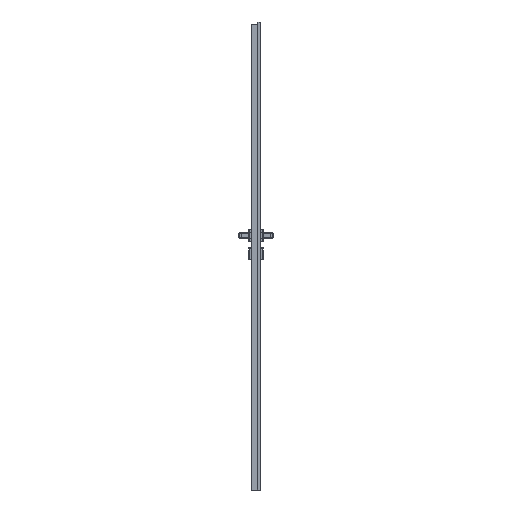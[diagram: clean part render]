
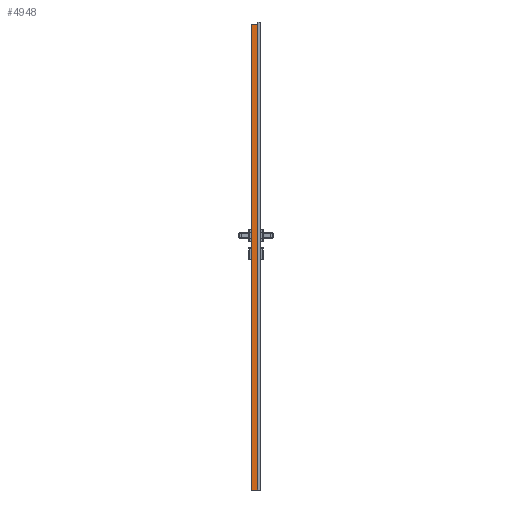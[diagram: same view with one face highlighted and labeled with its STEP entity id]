
A CAD part, left-side view. The second image highlights one B-rep face of the part: STEP entity #4948.
In plain terms, the highlighted planar face has unit normal (-1, 0, 0).
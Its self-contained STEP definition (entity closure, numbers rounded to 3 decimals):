
#2067=FACE_OUTER_BOUND('',#12147,.T.);
#4948=ADVANCED_FACE('',(#2067),#7770,.F.);
#7770=PLANE('',#59441);
#9772=CIRCLE('',#59422,1.48);
#12147=EDGE_LOOP('',(#16961,#16962,#16963,#16964,#16965));
#16961=ORIENTED_EDGE('',*,*,#39093,.F.);
#16962=ORIENTED_EDGE('',*,*,#39071,.T.);
#16963=ORIENTED_EDGE('',*,*,#39065,.T.);
#16964=ORIENTED_EDGE('',*,*,#39095,.F.);
#16965=ORIENTED_EDGE('',*,*,#39096,.T.);
#33151=VERTEX_POINT('',#83544);
#33152=VERTEX_POINT('',#83545);
#33156=VERTEX_POINT('',#83556);
#33167=VERTEX_POINT('',#83623);
#33168=VERTEX_POINT('',#83627);
#39065=EDGE_CURVE('',#33151,#33152,#47321,.T.);
#39071=EDGE_CURVE('',#33156,#33151,#9772,.T.);
#39093=EDGE_CURVE('',#33156,#33167,#47338,.T.);
#39095=EDGE_CURVE('',#33168,#33152,#47339,.T.);
#39096=EDGE_CURVE('',#33168,#33167,#47340,.T.);
#47321=LINE('',#83543,#53521);
#47338=LINE('',#83622,#53538);
#47339=LINE('',#83626,#53539);
#47340=LINE('',#83628,#53540);
#53521=VECTOR('',#65780,1.);
#53538=VECTOR('',#65837,1.);
#53539=VECTOR('',#65842,1.);
#53540=VECTOR('',#65843,1.);
#59422=AXIS2_PLACEMENT_3D('',#83555,#65790,#65791);
#59441=AXIS2_PLACEMENT_3D('',#83629,#65844,#65845);
#65780=DIRECTION('',(0.,1.,0.));
#65790=DIRECTION('',(1.,0.,0.));
#65791=DIRECTION('',(0.,0.,1.));
#65837=DIRECTION('',(0.,0.,-1.));
#65842=DIRECTION('',(0.,0.,1.));
#65843=DIRECTION('',(0.,-1.,0.));
#65844=DIRECTION('',(1.,0.,0.));
#65845=DIRECTION('',(0.,0.,-1.));
#83543=CARTESIAN_POINT('',(-309.,0.,2017.02));
#83544=CARTESIAN_POINT('',(-309.,-24.2,2017.02));
#83545=CARTESIAN_POINT('',(-309.,-1.65,2017.02));
#83555=CARTESIAN_POINT('',(-309.,-24.2,2018.5));
#83556=CARTESIAN_POINT('',(-309.,-24.649,2017.074));
#83622=CARTESIAN_POINT('',(-309.,-24.65,0.));
#83623=CARTESIAN_POINT('',(-309.,-24.65,0.));
#83626=CARTESIAN_POINT('',(-309.,-1.65,0.));
#83627=CARTESIAN_POINT('',(-309.,-1.65,0.));
#83628=CARTESIAN_POINT('',(-309.,-24.65,0.));
#83629=CARTESIAN_POINT('',(-309.,-24.65,0.));
